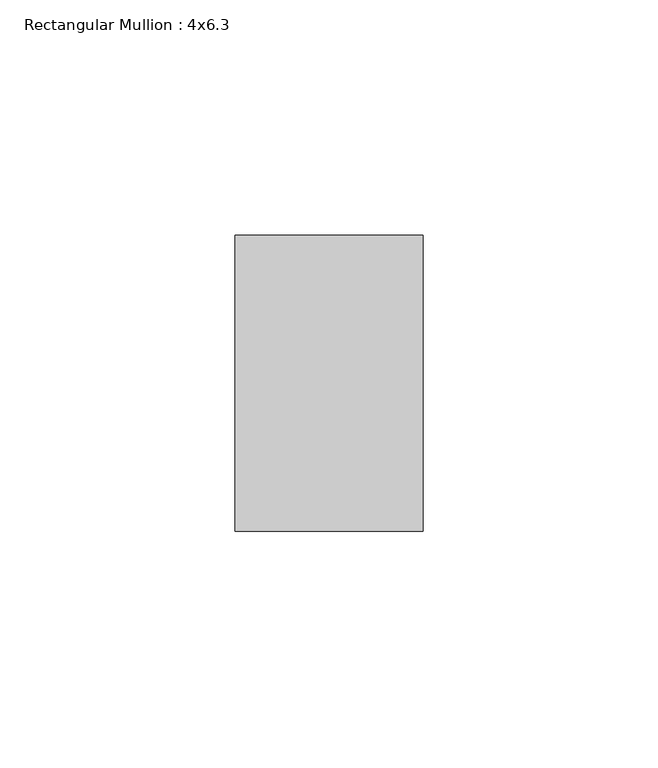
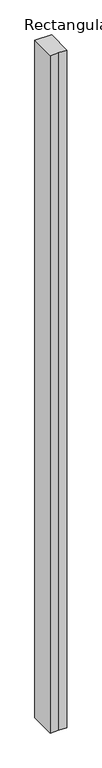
"""IFC4 building model written with IfcOpenShell, lengths in millimetres: member geometry, Rectangular Mullion : 4x6.3."""

from ifc_helpers import new_model, si_unit, frame, origin, place, context, project, spatial, polyline, outline, extrude, source, transform, mapped, element, save


def rectangular_mullion_4x6_3_065d3397(model_context):
    return source(origin(), model_context, "Body", "SweptSolid", [
        extrude(outline(polyline([(-20.0, 20.0), (-20.0, 83.0), (20.0, 83.0), (20.0, 20.0), (0.0, 20.0), (-20.0, 20.0)])), frame((0.0, 0.0, -1713.1087616), z_axis=(0.0, 0.0, 1.0), x_axis=(1.0, 0.0, 0.0)), (0.0, 0.0, 1.0), 1713.1087616),
    ])


if __name__ == "__main__":
    model = new_model("IFC4")
    model_context = context("Model", 3, world=origin())
    ifc_project = project(units=[si_unit("LENGTHUNIT", "METRE", prefix="MILLI")], contexts=[model_context])
    site = spatial("IfcSite", under=ifc_project)
    building = spatial("IfcBuilding", under=site)
    placement = place(None, origin())
    rectangular_mullion_4x6_3_shape = rectangular_mullion_4x6_3_065d3397(model_context)
    element("IfcMember", 1, ObjectType="Rectangular Mullion : 4x6.3", at=placement, inside=building, context=model_context, shape_type="MappedRepresentation", body=[
        mapped(rectangular_mullion_4x6_3_shape, transform((0.0, 0.0, 0.0), x_axis=(1.0, 0.0, 0.0), y_axis=(0.0, 1.0, 0.0), z_axis=(0.0, 0.0, 1.0))),
    ])
    save(model, "model.ifc")
